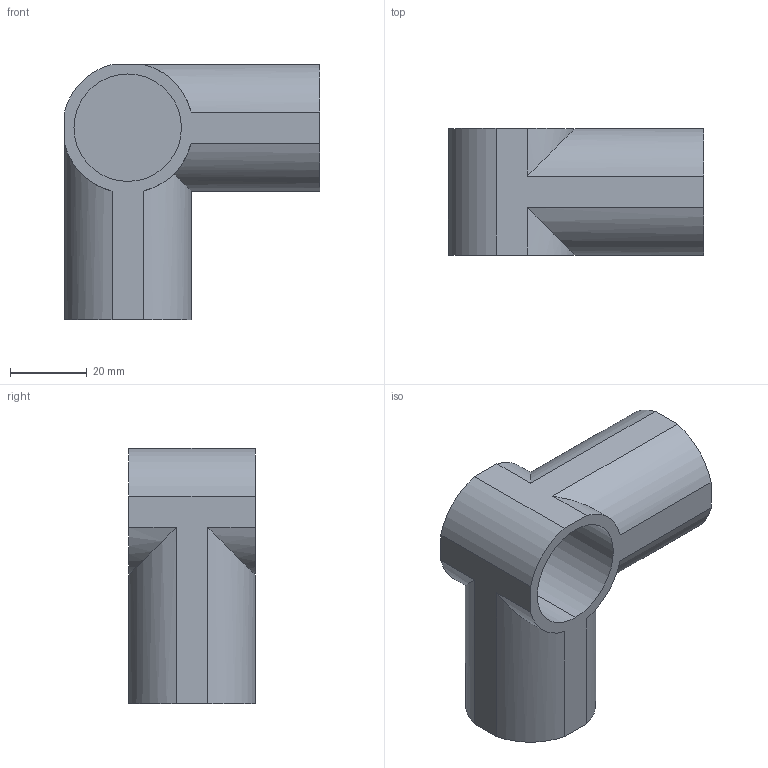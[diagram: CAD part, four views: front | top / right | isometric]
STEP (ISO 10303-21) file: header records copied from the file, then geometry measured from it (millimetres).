
FILE_DESCRIPTION (( 'STEP AP214' ), '1' );
FILE_NAME ('PJ-004.STEP', '2023-09-12T10:57:32', ( 'catia' ), ( 'HP Inc.' ), 'SwSTEP 2.0', 'SolidWorks 2021', '' );
FILE_SCHEMA (( 'AUTOMOTIVE_DESIGN' ));
Length unit declared in the file: millimetre
Products named in the file (1): PJ-004
Bounding box: 66.5 x 33 x 66.5 mm (x, y, z)
Volume: 37356.3 mm3; surface area: 20945.5 mm2
Topology: 1 solids, 1 shells, 32 faces, 79 edges, 52 vertices
Faces by surface type: cylinder 21, plane 11
Entity records: 989 total; most frequent: CARTESIAN_POINT 194, DIRECTION 163, ORIENTED_EDGE 158, EDGE_CURVE 79, AXIS2_PLACEMENT_3D 61, VERTEX_POINT 52, LINE 41, VECTOR 41
